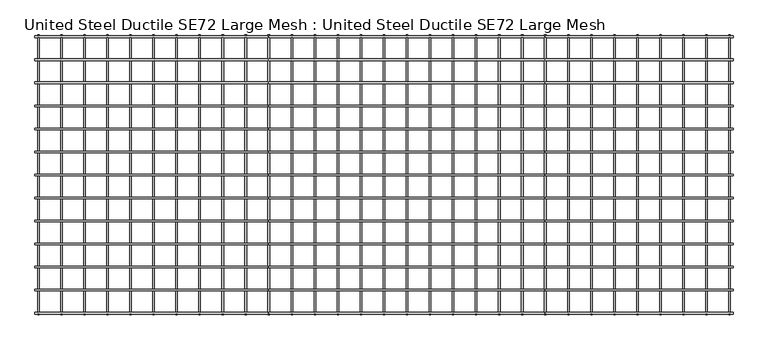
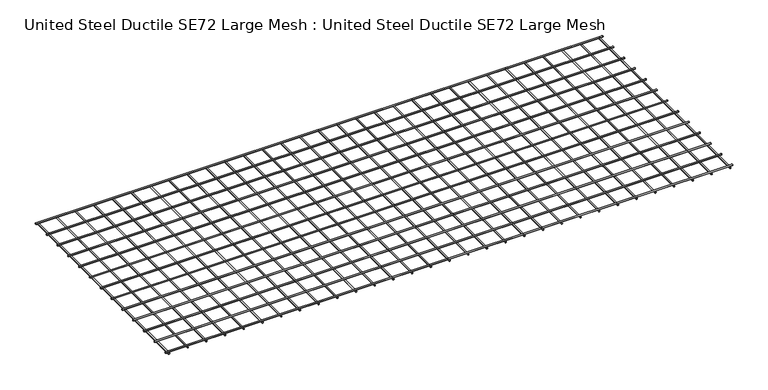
"""IFC4 building model written with IfcOpenShell, lengths in millimetres: proxy geometry, United Steel Ductile SE72 Large Mesh : United Steel Ductile SE72 Large Mesh."""

from ifc_helpers import new_model, si_unit, point, frame, frame_2d, origin, place, context, project, spatial, circle_curve, trimmed, segment, composite_curve, outline, extrude, source, transform, mapped, element, save


def united_steel_ductile_se72_large_mesh_united_steel_ductile_d334bcff(model_context):
    return source(origin(), model_context, "Body", "SweptSolid", [
        extrude(outline(composite_curve([segment(trimmed(circle_curve(frame_2d((-215.5934019, 20.9675855)), 7.0), [point((-222.5934019, 20.9675855))], [point((-208.5934019, 20.9675855))], False, "CARTESIAN"), True, "CONTINUOUS"), segment(trimmed(circle_curve(frame_2d((-215.5934019, 20.9675855)), 7.0), [point((-208.5934019, 20.9675855))], [point((-222.5934019, 20.9675855))], False, "CARTESIAN"), True, "CONTINUOUS")], self_intersect=False)), frame((-6060.0, 0.0, 0.0), z_axis=(1.0, 0.0, 0.0), x_axis=(0.0, 1.0, 0.0)), (0.0, 0.0, 1.0), 6060.0),
        extrude(outline(composite_curve([segment(trimmed(circle_curve(frame_2d((-415.5812295, 20.9675855)), 7.0), [point((-422.5812295, 20.9675855))], [point((-408.5812295, 20.9675855))], False, "CARTESIAN"), True, "CONTINUOUS"), segment(trimmed(circle_curve(frame_2d((-415.5812295, 20.9675855)), 7.0), [point((-408.5812295, 20.9675855))], [point((-422.5812295, 20.9675855))], False, "CARTESIAN"), True, "CONTINUOUS")], self_intersect=False)), frame((-6060.0, 0.0, 0.0), z_axis=(1.0, 0.0, 0.0), x_axis=(0.0, 1.0, 0.0)), (0.0, 0.0, 1.0), 6060.0),
        extrude(outline(composite_curve([segment(trimmed(circle_curve(frame_2d((6.9833072, -5829.877103)), 7.0), [point((6.9833072, -5836.877103))], [point((6.9833072, -5822.877103))], False, "CARTESIAN"), True, "CONTINUOUS"), segment(trimmed(circle_curve(frame_2d((6.9833072, -5829.877103)), 7.0), [point((6.9833072, -5822.877103))], [point((6.9833072, -5836.877103))], False, "CARTESIAN"), True, "CONTINUOUS")], self_intersect=False)), frame((0.0, -2430.0, 0.0), z_axis=(0.0, 1.0, 0.0), x_axis=(0.0, 0.0, 1.0)), (0.0, 0.0, 1.0), 2430.0),
        extrude(outline(composite_curve([segment(trimmed(circle_curve(frame_2d((6.9833072, -5629.8804145)), 7.0), [point((6.9833072, -5636.8804145))], [point((6.9833072, -5622.8804145))], False, "CARTESIAN"), True, "CONTINUOUS"), segment(trimmed(circle_curve(frame_2d((6.9833072, -5629.8804145)), 7.0), [point((6.9833072, -5622.8804145))], [point((6.9833072, -5636.8804145))], False, "CARTESIAN"), True, "CONTINUOUS")], self_intersect=False)), frame((0.0, -2430.0, 0.0), z_axis=(0.0, 1.0, 0.0), x_axis=(0.0, 0.0, 1.0)), (0.0, 0.0, 1.0), 2430.0),
        extrude(outline(composite_curve([segment(trimmed(circle_curve(frame_2d((6.9833072, -5429.883726)), 7.0), [point((6.9833072, -5436.883726))], [point((6.9833072, -5422.883726))], False, "CARTESIAN"), True, "CONTINUOUS"), segment(trimmed(circle_curve(frame_2d((6.9833072, -5429.883726)), 7.0), [point((6.9833072, -5422.883726))], [point((6.9833072, -5436.883726))], False, "CARTESIAN"), True, "CONTINUOUS")], self_intersect=False)), frame((0.0, -2430.0, 0.0), z_axis=(0.0, 1.0, 0.0), x_axis=(0.0, 0.0, 1.0)), (0.0, 0.0, 1.0), 2430.0),
        extrude(outline(composite_curve([segment(trimmed(circle_curve(frame_2d((6.9833072, -5229.8870376)), 7.0), [point((6.9833072, -5236.8870376))], [point((6.9833072, -5222.8870376))], False, "CARTESIAN"), True, "CONTINUOUS"), segment(trimmed(circle_curve(frame_2d((6.9833072, -5229.8870376)), 7.0), [point((6.9833072, -5222.8870376))], [point((6.9833072, -5236.8870376))], False, "CARTESIAN"), True, "CONTINUOUS")], self_intersect=False)), frame((0.0, -2430.0, 0.0), z_axis=(0.0, 1.0, 0.0), x_axis=(0.0, 0.0, 1.0)), (0.0, 0.0, 1.0), 2430.0),
        extrude(outline(composite_curve([segment(trimmed(circle_curve(frame_2d((6.9833072, -5029.8903491)), 7.0), [point((6.9833072, -5036.8903491))], [point((6.9833072, -5022.8903491))], False, "CARTESIAN"), True, "CONTINUOUS"), segment(trimmed(circle_curve(frame_2d((6.9833072, -5029.8903491)), 7.0), [point((6.9833072, -5022.8903491))], [point((6.9833072, -5036.8903491))], False, "CARTESIAN"), True, "CONTINUOUS")], self_intersect=False)), frame((0.0, -2430.0, 0.0), z_axis=(0.0, 1.0, 0.0), x_axis=(0.0, 0.0, 1.0)), (0.0, 0.0, 1.0), 2430.0),
        extrude(outline(composite_curve([segment(trimmed(circle_curve(frame_2d((-615.5690572, 20.9675855)), 7.0), [point((-622.5690572, 20.9675855))], [point((-608.5690572, 20.9675855))], False, "CARTESIAN"), True, "CONTINUOUS"), segment(trimmed(circle_curve(frame_2d((-615.5690572, 20.9675855)), 7.0), [point((-608.5690572, 20.9675855))], [point((-622.5690572, 20.9675855))], False, "CARTESIAN"), True, "CONTINUOUS")], self_intersect=False)), frame((-6060.0, 0.0, 0.0), z_axis=(1.0, 0.0, 0.0), x_axis=(0.0, 1.0, 0.0)), (0.0, 0.0, 1.0), 6060.0),
        extrude(outline(composite_curve([segment(trimmed(circle_curve(frame_2d((-815.5568848, 20.9675855)), 7.0), [point((-822.5568848, 20.9675855))], [point((-808.5568848, 20.9675855))], False, "CARTESIAN"), True, "CONTINUOUS"), segment(trimmed(circle_curve(frame_2d((-815.5568848, 20.9675855)), 7.0), [point((-808.5568848, 20.9675855))], [point((-822.5568848, 20.9675855))], False, "CARTESIAN"), True, "CONTINUOUS")], self_intersect=False)), frame((-6060.0, 0.0, 0.0), z_axis=(1.0, 0.0, 0.0), x_axis=(0.0, 1.0, 0.0)), (0.0, 0.0, 1.0), 6060.0),
        extrude(outline(composite_curve([segment(trimmed(circle_curve(frame_2d((-1015.5447124, 20.9675855)), 7.0), [point((-1022.5447124, 20.9675855))], [point((-1008.5447124, 20.9675855))], False, "CARTESIAN"), True, "CONTINUOUS"), segment(trimmed(circle_curve(frame_2d((-1015.5447124, 20.9675855)), 7.0), [point((-1008.5447124, 20.9675855))], [point((-1022.5447124, 20.9675855))], False, "CARTESIAN"), True, "CONTINUOUS")], self_intersect=False)), frame((-6060.0, 0.0, 0.0), z_axis=(1.0, 0.0, 0.0), x_axis=(0.0, 1.0, 0.0)), (0.0, 0.0, 1.0), 6060.0),
        extrude(outline(composite_curve([segment(trimmed(circle_curve(frame_2d((-1215.53254, 20.9675855)), 7.0), [point((-1222.53254, 20.9675855))], [point((-1208.53254, 20.9675855))], False, "CARTESIAN"), True, "CONTINUOUS"), segment(trimmed(circle_curve(frame_2d((-1215.53254, 20.9675855)), 7.0), [point((-1208.53254, 20.9675855))], [point((-1222.53254, 20.9675855))], False, "CARTESIAN"), True, "CONTINUOUS")], self_intersect=False)), frame((-6060.0, 0.0, 0.0), z_axis=(1.0, 0.0, 0.0), x_axis=(0.0, 1.0, 0.0)), (0.0, 0.0, 1.0), 6060.0),
        extrude(outline(composite_curve([segment(trimmed(circle_curve(frame_2d((-1415.5203677, 20.9675855)), 7.0), [point((-1422.5203677, 20.9675855))], [point((-1408.5203677, 20.9675855))], False, "CARTESIAN"), True, "CONTINUOUS"), segment(trimmed(circle_curve(frame_2d((-1415.5203677, 20.9675855)), 7.0), [point((-1408.5203677, 20.9675855))], [point((-1422.5203677, 20.9675855))], False, "CARTESIAN"), True, "CONTINUOUS")], self_intersect=False)), frame((-6060.0, 0.0, 0.0), z_axis=(1.0, 0.0, 0.0), x_axis=(0.0, 1.0, 0.0)), (0.0, 0.0, 1.0), 6060.0),
        extrude(outline(composite_curve([segment(trimmed(circle_curve(frame_2d((-1615.5081953, 20.9675855)), 7.0), [point((-1622.5081953, 20.9675855))], [point((-1608.5081953, 20.9675855))], False, "CARTESIAN"), True, "CONTINUOUS"), segment(trimmed(circle_curve(frame_2d((-1615.5081953, 20.9675855)), 7.0), [point((-1608.5081953, 20.9675855))], [point((-1622.5081953, 20.9675855))], False, "CARTESIAN"), True, "CONTINUOUS")], self_intersect=False)), frame((-6060.0, 0.0, 0.0), z_axis=(1.0, 0.0, 0.0), x_axis=(0.0, 1.0, 0.0)), (0.0, 0.0, 1.0), 6060.0),
        extrude(outline(composite_curve([segment(trimmed(circle_curve(frame_2d((-1815.4960229, 20.9675855)), 7.0), [point((-1822.4960229, 20.9675855))], [point((-1808.4960229, 20.9675855))], False, "CARTESIAN"), True, "CONTINUOUS"), segment(trimmed(circle_curve(frame_2d((-1815.4960229, 20.9675855)), 7.0), [point((-1808.4960229, 20.9675855))], [point((-1822.4960229, 20.9675855))], False, "CARTESIAN"), True, "CONTINUOUS")], self_intersect=False)), frame((-6060.0, 0.0, 0.0), z_axis=(1.0, 0.0, 0.0), x_axis=(0.0, 1.0, 0.0)), (0.0, 0.0, 1.0), 6060.0),
        extrude(outline(composite_curve([segment(trimmed(circle_curve(frame_2d((-2015.4838506, 20.9675855)), 7.0), [point((-2022.4838506, 20.9675855))], [point((-2008.4838506, 20.9675855))], False, "CARTESIAN"), True, "CONTINUOUS"), segment(trimmed(circle_curve(frame_2d((-2015.4838506, 20.9675855)), 7.0), [point((-2008.4838506, 20.9675855))], [point((-2022.4838506, 20.9675855))], False, "CARTESIAN"), True, "CONTINUOUS")], self_intersect=False)), frame((-6060.0, 0.0, 0.0), z_axis=(1.0, 0.0, 0.0), x_axis=(0.0, 1.0, 0.0)), (0.0, 0.0, 1.0), 6060.0),
        extrude(outline(composite_curve([segment(trimmed(circle_curve(frame_2d((-2215.4716782, 20.9675855)), 7.0), [point((-2222.4716782, 20.9675855))], [point((-2208.4716782, 20.9675855))], False, "CARTESIAN"), True, "CONTINUOUS"), segment(trimmed(circle_curve(frame_2d((-2215.4716782, 20.9675855)), 7.0), [point((-2208.4716782, 20.9675855))], [point((-2222.4716782, 20.9675855))], False, "CARTESIAN"), True, "CONTINUOUS")], self_intersect=False)), frame((-6060.0, 0.0, 0.0), z_axis=(1.0, 0.0, 0.0), x_axis=(0.0, 1.0, 0.0)), (0.0, 0.0, 1.0), 6060.0),
        extrude(outline(composite_curve([segment(trimmed(circle_curve(frame_2d((-15.6055743, 20.9675855)), 7.0), [point((-22.6055743, 20.9675855))], [point((-8.6055743, 20.9675855))], False, "CARTESIAN"), True, "CONTINUOUS"), segment(trimmed(circle_curve(frame_2d((-15.6055743, 20.9675855)), 7.0), [point((-8.6055743, 20.9675855))], [point((-22.6055743, 20.9675855))], False, "CARTESIAN"), True, "CONTINUOUS")], self_intersect=False)), frame((-6060.0, 0.0, 0.0), z_axis=(1.0, 0.0, 0.0), x_axis=(0.0, 1.0, 0.0)), (0.0, 0.0, 1.0), 6060.0),
        extrude(outline(composite_curve([segment(trimmed(circle_curve(frame_2d((-2415.4595058, 20.9675855)), 7.0), [point((-2422.4595058, 20.9675855))], [point((-2408.4595058, 20.9675855))], False, "CARTESIAN"), True, "CONTINUOUS"), segment(trimmed(circle_curve(frame_2d((-2415.4595058, 20.9675855)), 7.0), [point((-2408.4595058, 20.9675855))], [point((-2422.4595058, 20.9675855))], False, "CARTESIAN"), True, "CONTINUOUS")], self_intersect=False)), frame((-6060.0, 0.0, 0.0), z_axis=(1.0, 0.0, 0.0), x_axis=(0.0, 1.0, 0.0)), (0.0, 0.0, 1.0), 6060.0),
        extrude(outline(composite_curve([segment(trimmed(circle_curve(frame_2d((6.9833072, -4829.8936606)), 7.0), [point((6.9833072, -4836.8936606))], [point((6.9833072, -4822.8936606))], False, "CARTESIAN"), True, "CONTINUOUS"), segment(trimmed(circle_curve(frame_2d((6.9833072, -4829.8936606)), 7.0), [point((6.9833072, -4822.8936606))], [point((6.9833072, -4836.8936606))], False, "CARTESIAN"), True, "CONTINUOUS")], self_intersect=False)), frame((0.0, -2430.0, 0.0), z_axis=(0.0, 1.0, 0.0), x_axis=(0.0, 0.0, 1.0)), (0.0, 0.0, 1.0), 2430.0),
        extrude(outline(composite_curve([segment(trimmed(circle_curve(frame_2d((6.9833072, -4629.8969721)), 7.0), [point((6.9833072, -4636.8969721))], [point((6.9833072, -4622.8969721))], False, "CARTESIAN"), True, "CONTINUOUS"), segment(trimmed(circle_curve(frame_2d((6.9833072, -4629.8969721)), 7.0), [point((6.9833072, -4622.8969721))], [point((6.9833072, -4636.8969721))], False, "CARTESIAN"), True, "CONTINUOUS")], self_intersect=False)), frame((0.0, -2430.0, 0.0), z_axis=(0.0, 1.0, 0.0), x_axis=(0.0, 0.0, 1.0)), (0.0, 0.0, 1.0), 2430.0),
        extrude(outline(composite_curve([segment(trimmed(circle_curve(frame_2d((6.9833072, -4429.9002836)), 7.0), [point((6.9833072, -4436.9002836))], [point((6.9833072, -4422.9002836))], False, "CARTESIAN"), True, "CONTINUOUS"), segment(trimmed(circle_curve(frame_2d((6.9833072, -4429.9002836)), 7.0), [point((6.9833072, -4422.9002836))], [point((6.9833072, -4436.9002836))], False, "CARTESIAN"), True, "CONTINUOUS")], self_intersect=False)), frame((0.0, -2430.0, 0.0), z_axis=(0.0, 1.0, 0.0), x_axis=(0.0, 0.0, 1.0)), (0.0, 0.0, 1.0), 2430.0),
        extrude(outline(composite_curve([segment(trimmed(circle_curve(frame_2d((6.9833072, -4229.9035951)), 7.0), [point((6.9833072, -4236.9035951))], [point((6.9833072, -4222.9035951))], False, "CARTESIAN"), True, "CONTINUOUS"), segment(trimmed(circle_curve(frame_2d((6.9833072, -4229.9035951)), 7.0), [point((6.9833072, -4222.9035951))], [point((6.9833072, -4236.9035951))], False, "CARTESIAN"), True, "CONTINUOUS")], self_intersect=False)), frame((0.0, -2430.0, 0.0), z_axis=(0.0, 1.0, 0.0), x_axis=(0.0, 0.0, 1.0)), (0.0, 0.0, 1.0), 2430.0),
        extrude(outline(composite_curve([segment(trimmed(circle_curve(frame_2d((6.9833072, -4029.9069067)), 7.0), [point((6.9833072, -4036.9069067))], [point((6.9833072, -4022.9069067))], False, "CARTESIAN"), True, "CONTINUOUS"), segment(trimmed(circle_curve(frame_2d((6.9833072, -4029.9069067)), 7.0), [point((6.9833072, -4022.9069067))], [point((6.9833072, -4036.9069067))], False, "CARTESIAN"), True, "CONTINUOUS")], self_intersect=False)), frame((0.0, -2430.0, 0.0), z_axis=(0.0, 1.0, 0.0), x_axis=(0.0, 0.0, 1.0)), (0.0, 0.0, 1.0), 2430.0),
        extrude(outline(composite_curve([segment(trimmed(circle_curve(frame_2d((6.9833072, -3829.9102182)), 7.0), [point((6.9833072, -3836.9102182))], [point((6.9833072, -3822.9102182))], False, "CARTESIAN"), True, "CONTINUOUS"), segment(trimmed(circle_curve(frame_2d((6.9833072, -3829.9102182)), 7.0), [point((6.9833072, -3822.9102182))], [point((6.9833072, -3836.9102182))], False, "CARTESIAN"), True, "CONTINUOUS")], self_intersect=False)), frame((0.0, -2430.0, 0.0), z_axis=(0.0, 1.0, 0.0), x_axis=(0.0, 0.0, 1.0)), (0.0, 0.0, 1.0), 2430.0),
        extrude(outline(composite_curve([segment(trimmed(circle_curve(frame_2d((6.9833072, -3629.9135297)), 7.0), [point((6.9833072, -3636.9135297))], [point((6.9833072, -3622.9135297))], False, "CARTESIAN"), True, "CONTINUOUS"), segment(trimmed(circle_curve(frame_2d((6.9833072, -3629.9135297)), 7.0), [point((6.9833072, -3622.9135297))], [point((6.9833072, -3636.9135297))], False, "CARTESIAN"), True, "CONTINUOUS")], self_intersect=False)), frame((0.0, -2430.0, 0.0), z_axis=(0.0, 1.0, 0.0), x_axis=(0.0, 0.0, 1.0)), (0.0, 0.0, 1.0), 2430.0),
        extrude(outline(composite_curve([segment(trimmed(circle_curve(frame_2d((6.9833072, -3429.9168412)), 7.0), [point((6.9833072, -3436.9168412))], [point((6.9833072, -3422.9168412))], False, "CARTESIAN"), True, "CONTINUOUS"), segment(trimmed(circle_curve(frame_2d((6.9833072, -3429.9168412)), 7.0), [point((6.9833072, -3422.9168412))], [point((6.9833072, -3436.9168412))], False, "CARTESIAN"), True, "CONTINUOUS")], self_intersect=False)), frame((0.0, -2430.0, 0.0), z_axis=(0.0, 1.0, 0.0), x_axis=(0.0, 0.0, 1.0)), (0.0, 0.0, 1.0), 2430.0),
        extrude(outline(composite_curve([segment(trimmed(circle_curve(frame_2d((6.9833072, -3229.9201527)), 7.0), [point((6.9833072, -3236.9201527))], [point((6.9833072, -3222.9201527))], False, "CARTESIAN"), True, "CONTINUOUS"), segment(trimmed(circle_curve(frame_2d((6.9833072, -3229.9201527)), 7.0), [point((6.9833072, -3222.9201527))], [point((6.9833072, -3236.9201527))], False, "CARTESIAN"), True, "CONTINUOUS")], self_intersect=False)), frame((0.0, -2430.0, 0.0), z_axis=(0.0, 1.0, 0.0), x_axis=(0.0, 0.0, 1.0)), (0.0, 0.0, 1.0), 2430.0),
        extrude(outline(composite_curve([segment(trimmed(circle_curve(frame_2d((6.9833072, -3029.9234643)), 7.0), [point((6.9833072, -3036.9234643))], [point((6.9833072, -3022.9234643))], False, "CARTESIAN"), True, "CONTINUOUS"), segment(trimmed(circle_curve(frame_2d((6.9833072, -3029.9234643)), 7.0), [point((6.9833072, -3022.9234643))], [point((6.9833072, -3036.9234643))], False, "CARTESIAN"), True, "CONTINUOUS")], self_intersect=False)), frame((0.0, -2430.0, 0.0), z_axis=(0.0, 1.0, 0.0), x_axis=(0.0, 0.0, 1.0)), (0.0, 0.0, 1.0), 2430.0),
        extrude(outline(composite_curve([segment(trimmed(circle_curve(frame_2d((6.9833072, -2829.9267758)), 7.0), [point((6.9833072, -2836.9267758))], [point((6.9833072, -2822.9267758))], False, "CARTESIAN"), True, "CONTINUOUS"), segment(trimmed(circle_curve(frame_2d((6.9833072, -2829.9267758)), 7.0), [point((6.9833072, -2822.9267758))], [point((6.9833072, -2836.9267758))], False, "CARTESIAN"), True, "CONTINUOUS")], self_intersect=False)), frame((0.0, -2430.0, 0.0), z_axis=(0.0, 1.0, 0.0), x_axis=(0.0, 0.0, 1.0)), (0.0, 0.0, 1.0), 2430.0),
        extrude(outline(composite_curve([segment(trimmed(circle_curve(frame_2d((6.9833072, -2629.9300873)), 7.0), [point((6.9833072, -2636.9300873))], [point((6.9833072, -2622.9300873))], False, "CARTESIAN"), True, "CONTINUOUS"), segment(trimmed(circle_curve(frame_2d((6.9833072, -2629.9300873)), 7.0), [point((6.9833072, -2622.9300873))], [point((6.9833072, -2636.9300873))], False, "CARTESIAN"), True, "CONTINUOUS")], self_intersect=False)), frame((0.0, -2430.0, 0.0), z_axis=(0.0, 1.0, 0.0), x_axis=(0.0, 0.0, 1.0)), (0.0, 0.0, 1.0), 2430.0),
        extrude(outline(composite_curve([segment(trimmed(circle_curve(frame_2d((6.9833072, -2429.9333988)), 7.0), [point((6.9833072, -2436.9333988))], [point((6.9833072, -2422.9333988))], False, "CARTESIAN"), True, "CONTINUOUS"), segment(trimmed(circle_curve(frame_2d((6.9833072, -2429.9333988)), 7.0), [point((6.9833072, -2422.9333988))], [point((6.9833072, -2436.9333988))], False, "CARTESIAN"), True, "CONTINUOUS")], self_intersect=False)), frame((0.0, -2430.0, 0.0), z_axis=(0.0, 1.0, 0.0), x_axis=(0.0, 0.0, 1.0)), (0.0, 0.0, 1.0), 2430.0),
        extrude(outline(composite_curve([segment(trimmed(circle_curve(frame_2d((6.9833072, -2229.9367103)), 7.0), [point((6.9833072, -2236.9367103))], [point((6.9833072, -2222.9367103))], False, "CARTESIAN"), True, "CONTINUOUS"), segment(trimmed(circle_curve(frame_2d((6.9833072, -2229.9367103)), 7.0), [point((6.9833072, -2222.9367103))], [point((6.9833072, -2236.9367103))], False, "CARTESIAN"), True, "CONTINUOUS")], self_intersect=False)), frame((0.0, -2430.0, 0.0), z_axis=(0.0, 1.0, 0.0), x_axis=(0.0, 0.0, 1.0)), (0.0, 0.0, 1.0), 2430.0),
        extrude(outline(composite_curve([segment(trimmed(circle_curve(frame_2d((6.9833072, -2029.9400218)), 7.0), [point((6.9833072, -2036.9400218))], [point((6.9833072, -2022.9400218))], False, "CARTESIAN"), True, "CONTINUOUS"), segment(trimmed(circle_curve(frame_2d((6.9833072, -2029.9400218)), 7.0), [point((6.9833072, -2022.9400218))], [point((6.9833072, -2036.9400218))], False, "CARTESIAN"), True, "CONTINUOUS")], self_intersect=False)), frame((0.0, -2430.0, 0.0), z_axis=(0.0, 1.0, 0.0), x_axis=(0.0, 0.0, 1.0)), (0.0, 0.0, 1.0), 2430.0),
        extrude(outline(composite_curve([segment(trimmed(circle_curve(frame_2d((6.9833072, -1829.9433334)), 7.0), [point((6.9833072, -1836.9433334))], [point((6.9833072, -1822.9433334))], False, "CARTESIAN"), True, "CONTINUOUS"), segment(trimmed(circle_curve(frame_2d((6.9833072, -1829.9433334)), 7.0), [point((6.9833072, -1822.9433334))], [point((6.9833072, -1836.9433334))], False, "CARTESIAN"), True, "CONTINUOUS")], self_intersect=False)), frame((0.0, -2430.0, 0.0), z_axis=(0.0, 1.0, 0.0), x_axis=(0.0, 0.0, 1.0)), (0.0, 0.0, 1.0), 2430.0),
        extrude(outline(composite_curve([segment(trimmed(circle_curve(frame_2d((6.9833072, -1629.9466449)), 7.0), [point((6.9833072, -1636.9466449))], [point((6.9833072, -1622.9466449))], False, "CARTESIAN"), True, "CONTINUOUS"), segment(trimmed(circle_curve(frame_2d((6.9833072, -1629.9466449)), 7.0), [point((6.9833072, -1622.9466449))], [point((6.9833072, -1636.9466449))], False, "CARTESIAN"), True, "CONTINUOUS")], self_intersect=False)), frame((0.0, -2430.0, 0.0), z_axis=(0.0, 1.0, 0.0), x_axis=(0.0, 0.0, 1.0)), (0.0, 0.0, 1.0), 2430.0),
        extrude(outline(composite_curve([segment(trimmed(circle_curve(frame_2d((6.9833072, -1429.9499564)), 7.0), [point((6.9833072, -1436.9499564))], [point((6.9833072, -1422.9499564))], False, "CARTESIAN"), True, "CONTINUOUS"), segment(trimmed(circle_curve(frame_2d((6.9833072, -1429.9499564)), 7.0), [point((6.9833072, -1422.9499564))], [point((6.9833072, -1436.9499564))], False, "CARTESIAN"), True, "CONTINUOUS")], self_intersect=False)), frame((0.0, -2430.0, 0.0), z_axis=(0.0, 1.0, 0.0), x_axis=(0.0, 0.0, 1.0)), (0.0, 0.0, 1.0), 2430.0),
        extrude(outline(composite_curve([segment(trimmed(circle_curve(frame_2d((6.9833072, -1229.9532679)), 7.0), [point((6.9833072, -1236.9532679))], [point((6.9833072, -1222.9532679))], False, "CARTESIAN"), True, "CONTINUOUS"), segment(trimmed(circle_curve(frame_2d((6.9833072, -1229.9532679)), 7.0), [point((6.9833072, -1222.9532679))], [point((6.9833072, -1236.9532679))], False, "CARTESIAN"), True, "CONTINUOUS")], self_intersect=False)), frame((0.0, -2430.0, 0.0), z_axis=(0.0, 1.0, 0.0), x_axis=(0.0, 0.0, 1.0)), (0.0, 0.0, 1.0), 2430.0),
        extrude(outline(composite_curve([segment(trimmed(circle_curve(frame_2d((6.9833072, -1029.9565794)), 7.0), [point((6.9833072, -1036.9565794))], [point((6.9833072, -1022.9565794))], False, "CARTESIAN"), True, "CONTINUOUS"), segment(trimmed(circle_curve(frame_2d((6.9833072, -1029.9565794)), 7.0), [point((6.9833072, -1022.9565794))], [point((6.9833072, -1036.9565794))], False, "CARTESIAN"), True, "CONTINUOUS")], self_intersect=False)), frame((0.0, -2430.0, 0.0), z_axis=(0.0, 1.0, 0.0), x_axis=(0.0, 0.0, 1.0)), (0.0, 0.0, 1.0), 2430.0),
        extrude(outline(composite_curve([segment(trimmed(circle_curve(frame_2d((6.9833072, -829.959891)), 7.0), [point((6.9833072, -836.959891))], [point((6.9833072, -822.959891))], False, "CARTESIAN"), True, "CONTINUOUS"), segment(trimmed(circle_curve(frame_2d((6.9833072, -829.959891)), 7.0), [point((6.9833072, -822.959891))], [point((6.9833072, -836.959891))], False, "CARTESIAN"), True, "CONTINUOUS")], self_intersect=False)), frame((0.0, -2430.0, 0.0), z_axis=(0.0, 1.0, 0.0), x_axis=(0.0, 0.0, 1.0)), (0.0, 0.0, 1.0), 2430.0),
        extrude(outline(composite_curve([segment(trimmed(circle_curve(frame_2d((6.9833072, -629.9632025)), 7.0), [point((6.9833072, -636.9632025))], [point((6.9833072, -622.9632025))], False, "CARTESIAN"), True, "CONTINUOUS"), segment(trimmed(circle_curve(frame_2d((6.9833072, -629.9632025)), 7.0), [point((6.9833072, -622.9632025))], [point((6.9833072, -636.9632025))], False, "CARTESIAN"), True, "CONTINUOUS")], self_intersect=False)), frame((0.0, -2430.0, 0.0), z_axis=(0.0, 1.0, 0.0), x_axis=(0.0, 0.0, 1.0)), (0.0, 0.0, 1.0), 2430.0),
        extrude(outline(composite_curve([segment(trimmed(circle_curve(frame_2d((6.9833072, -429.966514)), 7.0), [point((6.9833072, -436.966514))], [point((6.9833072, -422.966514))], False, "CARTESIAN"), True, "CONTINUOUS"), segment(trimmed(circle_curve(frame_2d((6.9833072, -429.966514)), 7.0), [point((6.9833072, -422.966514))], [point((6.9833072, -436.966514))], False, "CARTESIAN"), True, "CONTINUOUS")], self_intersect=False)), frame((0.0, -2430.0, 0.0), z_axis=(0.0, 1.0, 0.0), x_axis=(0.0, 0.0, 1.0)), (0.0, 0.0, 1.0), 2430.0),
        extrude(outline(composite_curve([segment(trimmed(circle_curve(frame_2d((6.9833072, -229.9698255)), 7.0), [point((6.9833072, -236.9698255))], [point((6.9833072, -222.9698255))], False, "CARTESIAN"), True, "CONTINUOUS"), segment(trimmed(circle_curve(frame_2d((6.9833072, -229.9698255)), 7.0), [point((6.9833072, -222.9698255))], [point((6.9833072, -236.9698255))], False, "CARTESIAN"), True, "CONTINUOUS")], self_intersect=False)), frame((0.0, -2430.0, 0.0), z_axis=(0.0, 1.0, 0.0), x_axis=(0.0, 0.0, 1.0)), (0.0, 0.0, 1.0), 2430.0),
        extrude(outline(composite_curve([segment(trimmed(circle_curve(frame_2d((6.9833072, -6029.8737915)), 7.0), [point((6.9833072, -6036.8737915))], [point((6.9833072, -6022.8737915))], False, "CARTESIAN"), True, "CONTINUOUS"), segment(trimmed(circle_curve(frame_2d((6.9833072, -6029.8737915)), 7.0), [point((6.9833072, -6022.8737915))], [point((6.9833072, -6036.8737915))], False, "CARTESIAN"), True, "CONTINUOUS")], self_intersect=False)), frame((0.0, -2430.0, 0.0), z_axis=(0.0, 1.0, 0.0), x_axis=(0.0, 0.0, 1.0)), (0.0, 0.0, 1.0), 2430.0),
        extrude(outline(composite_curve([segment(trimmed(circle_curve(frame_2d((6.9833072, -29.973137)), 7.0), [point((6.9833072, -36.973137))], [point((6.9833072, -22.973137))], False, "CARTESIAN"), True, "CONTINUOUS"), segment(trimmed(circle_curve(frame_2d((6.9833072, -29.973137)), 7.0), [point((6.9833072, -22.973137))], [point((6.9833072, -36.973137))], False, "CARTESIAN"), True, "CONTINUOUS")], self_intersect=False)), frame((0.0, -2430.0, 0.0), z_axis=(0.0, 1.0, 0.0), x_axis=(0.0, 0.0, 1.0)), (0.0, 0.0, 1.0), 2430.0),
    ])


if __name__ == "__main__":
    model = new_model("IFC4")
    model_context = context("Model", 3, world=origin())
    ifc_project = project(units=[si_unit("LENGTHUNIT", "METRE", prefix="MILLI")], contexts=[model_context])
    site = spatial("IfcSite", under=ifc_project)
    building = spatial("IfcBuilding", under=site)
    placement = place(None, origin())
    united_steel_ductile_se72_large_mesh_united_steel_ductile_shape = united_steel_ductile_se72_large_mesh_united_steel_ductile_d334bcff(model_context)
    element("IfcBuildingElementProxy", 1, Name="United Steel Ductile SE72 Large Mesh : United Steel Ductile SE72 Large Mesh", ObjectType="United Steel Ductile SE72 Large Mesh : United Steel Ductile SE72 Large Mesh", at=placement, inside=building, context=model_context, shape_type="MappedRepresentation", body=[
        mapped(united_steel_ductile_se72_large_mesh_united_steel_ductile_shape, transform((0.0, 0.0, 0.0), x_axis=(1.0, 0.0, 0.0), y_axis=(0.0, 1.0, 0.0), z_axis=(0.0, 0.0, 1.0))),
    ])
    save(model, "model.ifc")
